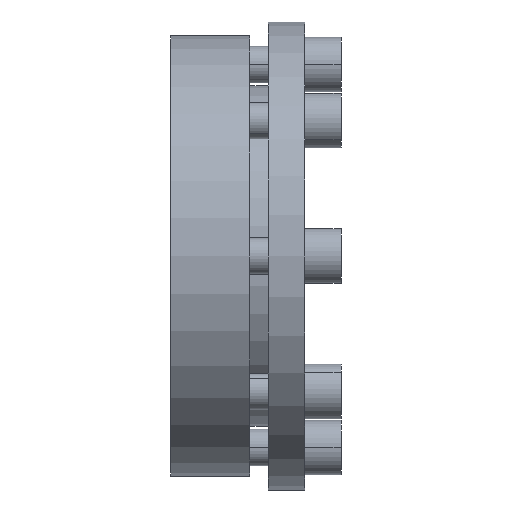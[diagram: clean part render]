
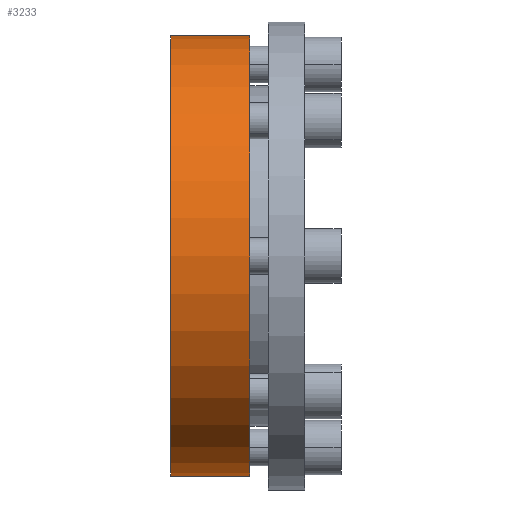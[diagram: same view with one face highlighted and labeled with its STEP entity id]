
A CAD part, front view. The second image highlights one B-rep face of the part: STEP entity #3233.
In plain terms, the highlighted cylindrical face has radius 72.5 mm (diameter 145 mm), a partial arc.
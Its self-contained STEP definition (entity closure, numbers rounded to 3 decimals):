
#723 = CARTESIAN_POINT ( 'NONE',  ( -18., 0., 72.5 ) ) ;
#724 = DIRECTION ( 'NONE',  ( 1., 0., 0. ) ) ;
#725 = VECTOR ( 'NONE', #724, 1000. ) ;
#726 = CARTESIAN_POINT ( 'NONE',  ( 0., 0., 72.5 ) ) ;
#727 = LINE ( 'NONE', #726, #725 ) ;
#728 = CARTESIAN_POINT ( 'NONE',  ( -44., 0., 72.5 ) ) ;
#729 = CARTESIAN_POINT ( 'NONE',  ( -44., 0., -72.5 ) ) ;
#780 = CARTESIAN_POINT ( 'NONE',  ( -18., 0., -72.5 ) ) ;
#811 = LINE ( 'NONE', #817, #878 ) ;
#817 = CARTESIAN_POINT ( 'NONE',  ( 0., 0., -72.5 ) ) ;
#877 = DIRECTION ( 'NONE',  ( 1., 0., 0. ) ) ;
#878 = VECTOR ( 'NONE', #877, 1000. ) ;
#916 = DIRECTION ( 'NONE',  ( 0., 0., -1. ) ) ;
#917 = DIRECTION ( 'NONE',  ( 1., 0., 0. ) ) ;
#918 = CARTESIAN_POINT ( 'NONE',  ( -44., 0., 0. ) ) ;
#919 = AXIS2_PLACEMENT_3D ( 'NONE', #918, #917, #916 ) ;
#920 = CIRCLE ( 'NONE', #919, 72.5 ) ;
#930 = DIRECTION ( 'NONE',  ( 0., 0., -1. ) ) ;
#931 = DIRECTION ( 'NONE',  ( 1., 0., 0. ) ) ;
#932 = CARTESIAN_POINT ( 'NONE',  ( 0., 0., 0. ) ) ;
#933 = AXIS2_PLACEMENT_3D ( 'NONE', #932, #931, #930 ) ;
#935 = CYLINDRICAL_SURFACE ( 'NONE', #933, 72.5 ) ;
#936 = FACE_OUTER_BOUND ( 'NONE', #3234, .T. ) ;
#989 = DIRECTION ( 'NONE',  ( 0., 0., -1. ) ) ;
#990 = DIRECTION ( 'NONE',  ( 1., 0., 0. ) ) ;
#991 = CARTESIAN_POINT ( 'NONE',  ( -18., 0., 0. ) ) ;
#992 = AXIS2_PLACEMENT_3D ( 'NONE', #991, #990, #989 ) ;
#993 = CIRCLE ( 'NONE', #992, 72.5 ) ;
#3138 = VERTEX_POINT ( 'NONE', #729 ) ;
#3139 = VERTEX_POINT ( 'NONE', #728 ) ;
#3141 = EDGE_CURVE ( 'NONE', #3139, #3142, #727, .T. ) ;
#3142 = VERTEX_POINT ( 'NONE', #723 ) ;
#3145 = VERTEX_POINT ( 'NONE', #780 ) ;
#3200 = EDGE_CURVE ( 'NONE', #3138, #3145, #811, .T. ) ;
#3233 = ADVANCED_FACE ( 'NONE', ( #936 ), #935, .T. ) ;
#3234 = EDGE_LOOP ( 'NONE', ( #3235, #3290, #3291, #3292 ) ) ;
#3235 = ORIENTED_EDGE ( 'NONE', *, *, #3141, .F. ) ;
#3246 = EDGE_CURVE ( 'NONE', #3139, #3138, #920, .T. ) ;
#3290 = ORIENTED_EDGE ( 'NONE', *, *, #3246, .T. ) ;
#3291 = ORIENTED_EDGE ( 'NONE', *, *, #3200, .T. ) ;
#3292 = ORIENTED_EDGE ( 'NONE', *, *, #3293, .F. ) ;
#3293 = EDGE_CURVE ( 'NONE', #3142, #3145, #993, .T. ) ;
